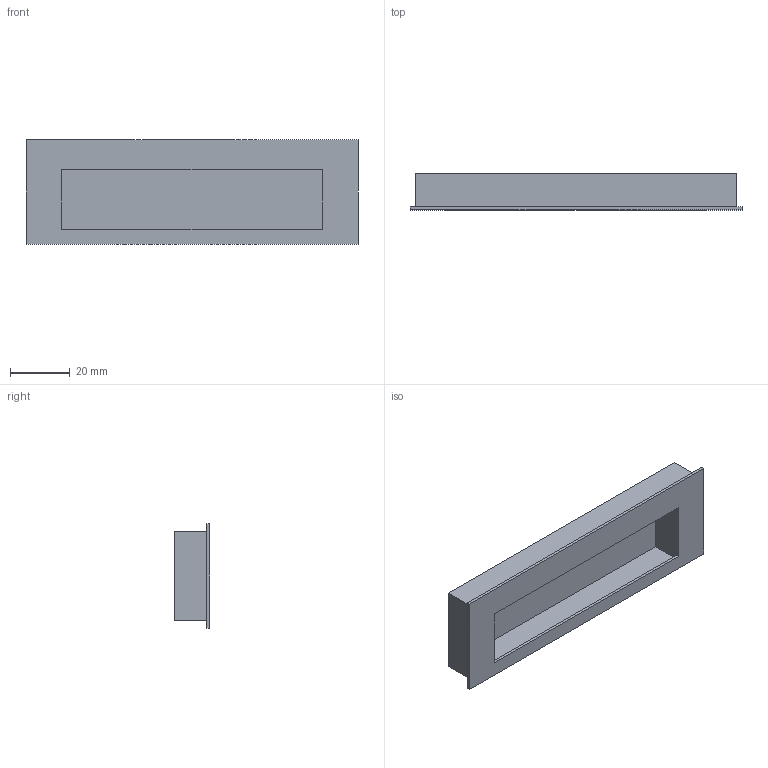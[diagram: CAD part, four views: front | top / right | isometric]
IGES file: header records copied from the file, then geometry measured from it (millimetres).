
Start section: Data from Parasolid IGES Translator 15.0.47, Copyright(c) 2006 Siemens P LM Software. All Rights Reserved.
Global section: file name:  9071060.igs; native system:  By UGS Corp.; preprocessor: XPlus GENERIC/IGES 3.0; author: Noname; organization: Noname; date: 20140122.180949; units: millimetre
Bounding box: 111 x 12 x 35 mm (x, y, z)
Surface area: 15183.1 mm2 (no closed solid volume)
Topology: 0 solids, 0 shells, 24 faces, 108 edges, 106 vertices
Faces by surface type: extrusion 22, revolution 2
